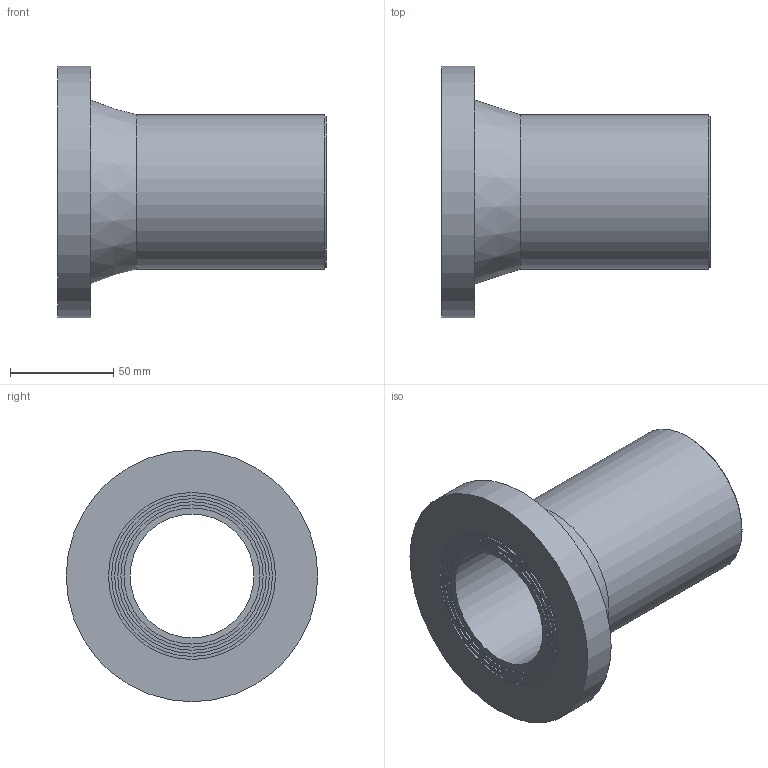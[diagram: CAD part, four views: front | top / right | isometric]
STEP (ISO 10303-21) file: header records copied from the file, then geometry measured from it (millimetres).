
FILE_DESCRIPTION(/* description */ ('Stub Flange 75'),/* implementation_level */ '2;1');
FILE_NAME(/* name */ 'C:\Dropbox\KIMPROJECTS-Inventor\99-16-3568-Processing\ElectroFusion Fittings\31.03.19\490207\490207075.ipt.stp',/* time_stamp */ '2019-03-31T18:57:42+03:00',/* author */ ('Кирилл'),/* organization */ (''),/* preprocessor_version */ 'ST-DEVELOPER v15.6',/* originating_system */ 'Autodesk Inventor 2015',/* authorisation */ '');
FILE_SCHEMA (('AUTOMOTIVE_DESIGN { 1 0 10303 214 3 1 1 }'));
Length unit declared in the file: millimetre
Products named in the file (1): 490207075
Bounding box: 130 x 122 x 122 mm (x, y, z)
Volume: 341534.5 mm3; surface area: 75117.6 mm2
Topology: 1 solids, 1 shells, 20 faces, 31 edges, 20 vertices
Faces by surface type: cylinder 9, plane 9, cone 2
Full cylindrical faces by diameter (mm): 60 x1, 66 x1, 69 x1, 72 x1, 75 x2, 78 x1, 81 x1, 122 x1
Entity records: 432 total; most frequent: DIRECTION 82, CARTESIAN_POINT 61, AXIS2_PLACEMENT_3D 41, EDGE_LOOP 40, ORIENTED_EDGE 40, FACE_BOUND 20, FACE_OUTER_BOUND 20, CIRCLE 20
